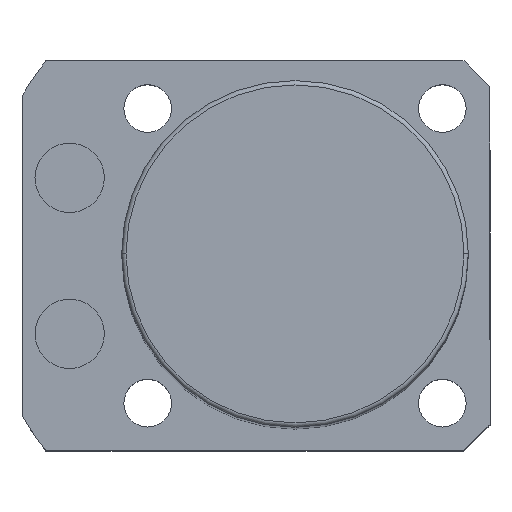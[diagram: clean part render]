
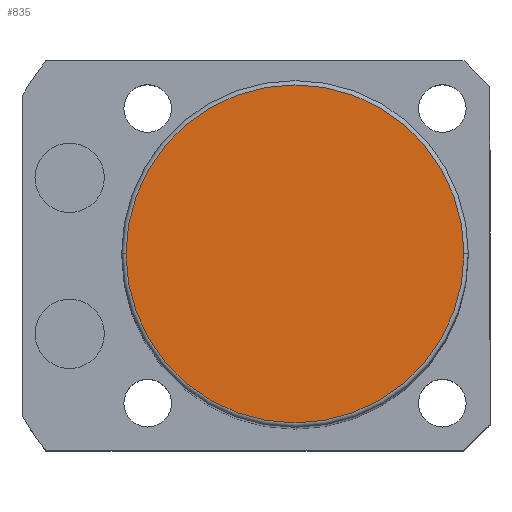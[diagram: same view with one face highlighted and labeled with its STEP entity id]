
A CAD part, top view. The second image highlights one B-rep face of the part: STEP entity #835.
In plain terms, the highlighted planar face has unit normal (0, 0, 1).
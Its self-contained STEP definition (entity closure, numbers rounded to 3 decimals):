
#63 = VERTEX_POINT ( 'NONE', #2639 ) ;
#255 = DIRECTION ( 'NONE',  ( 0., 0., 1. ) ) ;
#347 = EDGE_CURVE ( 'NONE', #522, #63, #2513, .T. ) ;
#522 = VERTEX_POINT ( 'NONE', #2255 ) ;
#601 = CARTESIAN_POINT ( 'NONE',  ( 0., 0., 138.5 ) ) ;
#637 = EDGE_CURVE ( 'NONE', #63, #522, #1218, .T. ) ;
#651 = CARTESIAN_POINT ( 'NONE',  ( 0., 0., 138.5 ) ) ;
#708 = ORIENTED_EDGE ( 'NONE', *, *, #637, .T. ) ;
#835 = ADVANCED_FACE ( 'NONE', ( #1027 ), #2149, .T. ) ;
#893 = DIRECTION ( 'NONE',  ( 0., 0., 1. ) ) ;
#959 = AXIS2_PLACEMENT_3D ( 'NONE', #651, #255, #1726 ) ;
#1027 = FACE_OUTER_BOUND ( 'NONE', #1416, .T. ) ;
#1113 = CARTESIAN_POINT ( 'NONE',  ( 0., 0., 138.5 ) ) ;
#1218 = CIRCLE ( 'NONE', #2143, 19.5 ) ;
#1416 = EDGE_LOOP ( 'NONE', ( #708, #1459 ) ) ;
#1446 = DIRECTION ( 'NONE',  ( 0., 0., 1. ) ) ;
#1459 = ORIENTED_EDGE ( 'NONE', *, *, #347, .T. ) ;
#1486 = AXIS2_PLACEMENT_3D ( 'NONE', #1113, #893, #1957 ) ;
#1726 = DIRECTION ( 'NONE',  ( 1., 0., 0. ) ) ;
#1882 = DIRECTION ( 'NONE',  ( 1., 0., 0. ) ) ;
#1957 = DIRECTION ( 'NONE',  ( 1., 0., 0. ) ) ;
#2143 = AXIS2_PLACEMENT_3D ( 'NONE', #601, #1446, #1882 ) ;
#2149 = PLANE ( 'NONE',  #1486 ) ;
#2255 = CARTESIAN_POINT ( 'NONE',  ( -19.5, 0., 138.5 ) ) ;
#2513 = CIRCLE ( 'NONE', #959, 19.5 ) ;
#2639 = CARTESIAN_POINT ( 'NONE',  ( 19.5, 0., 138.5 ) ) ;
